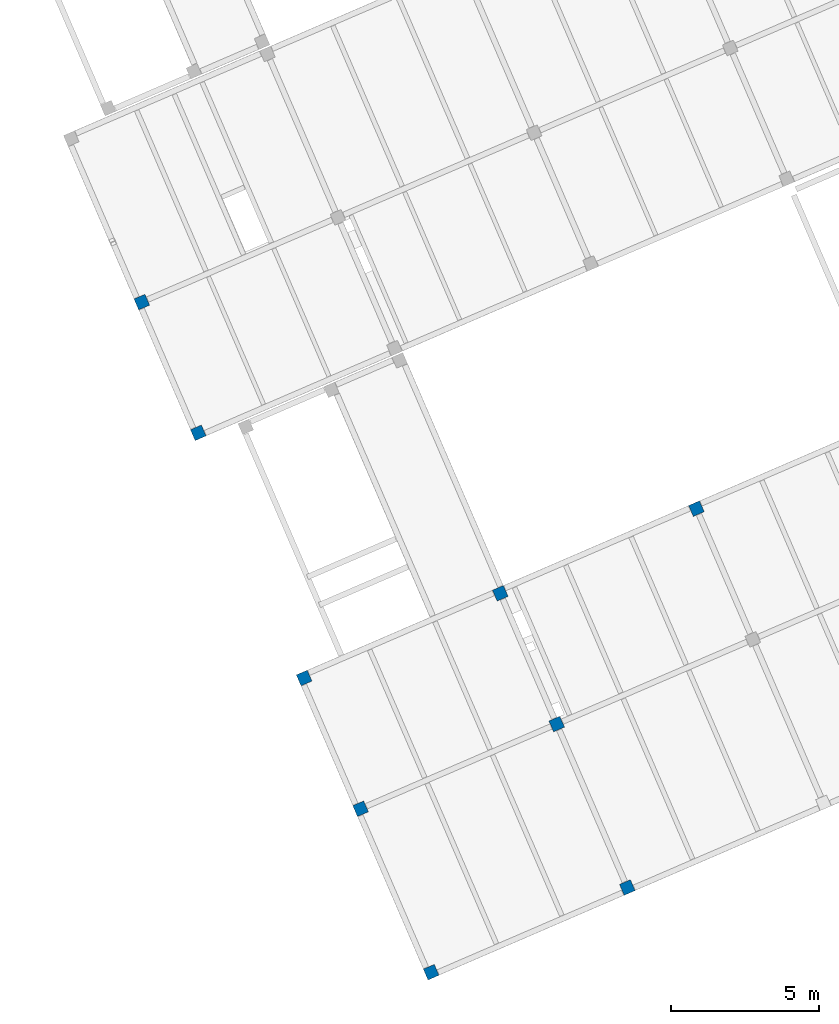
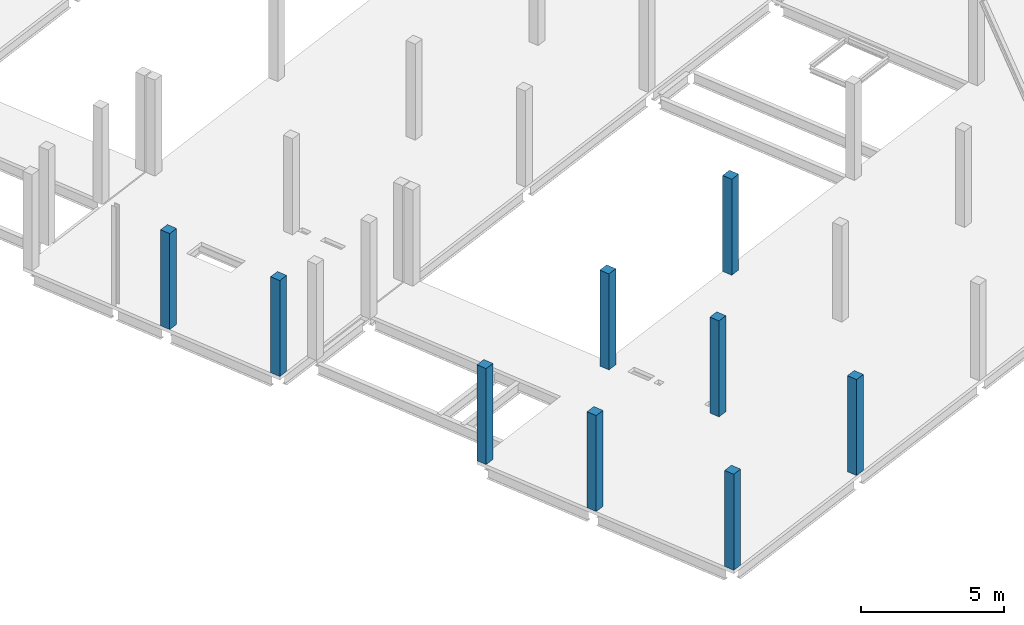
# One storey, part 1 of 24: 9 columns.
"""IFC4 building model written with IfcOpenShell, lengths in metres."""

import ifcopenshell
import ifcopenshell.guid

model = None  # the IFC model being written
_history = None  # IfcOwnerHistory: only IFC2X3 demands one
_inside = {}  # id of a spatial element -> (the spatial element, [elements in it])
_under = {}  # id of a project, library or spatial element -> (it, [spatial elements below it])
_declared = {}  # id of a project -> (the project, [libraries it declares])
_typed = {}  # id of a type object -> (the type object, [elements of that type])
_made_of = {}  # id of a material, layer set ... -> (it, [elements and type objects made of it])


def new_model(schema):
    """Start an empty IFC model of exactly this schema.

    Asked for "IFC4X3", IfcOpenShell would pick the latest addendum, in which some entities
    have other attributes; the version numbers below select the first issue.
    IFC2X3 requires an IfcOwnerHistory on every rooted entity: one is made here for all.
    """
    global model, _history
    if schema == "IFC4X3":
        model = ifcopenshell.file(schema_version=(4, 3, 0, 0))
    else:
        model = ifcopenshell.file(schema=schema)
    _inside.clear()
    _under.clear()
    _declared.clear()
    _typed.clear()
    _made_of.clear()
    _history = None
    if model.schema == "IFC2X3":
        org = make("IfcOrganization", Name="unknown")
        user = make(
            "IfcPersonAndOrganization",
            ThePerson=make("IfcPerson", FamilyName="unknown"),
            TheOrganization=org,
        )
        app = make(
            "IfcApplication",
            ApplicationDeveloper=org,
            Version="unknown",
            ApplicationFullName="unknown",
            ApplicationIdentifier="unknown",
        )
        _history = make(
            "IfcOwnerHistory",
            OwningUser=user,
            OwningApplication=app,
            ChangeAction="ADDED",
            CreationDate=0,
        )
    return model


def make(cls, **values):
    """One entity of the class cls with the attributes given. An attribute that is None is left unset."""
    return model.create_entity(
        cls, **{name: value for name, value in values.items() if value is not None}
    )


def entity(cls, *values):
    """Any entity or typed value of the class cls, its attributes in the order of the schema. None: left unset."""
    e = model.create_entity(cls)
    for i, value in enumerate(values):
        if value is not None:
            e[i] = value
    return e


def rooted(cls, **values):
    """An entity with a GlobalId (a new one), such as an element, a storey or a relation."""
    return make(cls, GlobalId=ifcopenshell.guid.new(), OwnerHistory=_history, **values)


def si_unit(unit_type, name, prefix=None):
    """IfcSIUnit, for example si_unit("LENGTHUNIT", "METRE", prefix="MILLI")."""
    return make("IfcSIUnit", UnitType=unit_type, Prefix=prefix, Name=name)


def converted_unit(unit_type, name, factor, base, dimensions=None, offset=None):
    """IfcConversionBasedUnit, such as the inch: factor (a typed value) times the base unit."""
    return make(
        "IfcConversionBasedUnit"
        if offset is None
        else "IfcConversionBasedUnitWithOffset",
        ConversionOffset=offset,
        Dimensions=None
        if dimensions is None
        else entity("IfcDimensionalExponents", *dimensions),
        UnitType=unit_type,
        Name=name,
        ConversionFactor=make(
            "IfcMeasureWithUnit", ValueComponent=factor, UnitComponent=base
        ),
    )


def derived_unit(unit_type, elements):
    """IfcDerivedUnit: a product of units, each with its exponent."""
    return make(
        "IfcDerivedUnit",
        Elements=[
            make("IfcDerivedUnitElement", Unit=unit, Exponent=power)
            for unit, power in elements
        ],
        UnitType=unit_type,
    )


def assignment(units):
    """IfcUnitAssignment: the units of a project."""
    return None if units is None else make("IfcUnitAssignment", Units=units)


def point(xyz):
    """IfcCartesianPoint."""
    return None if xyz is None else make("IfcCartesianPoint", Coordinates=xyz)


def direction(xyz):
    """IfcDirection."""
    return None if xyz is None else make("IfcDirection", DirectionRatios=xyz)


def frame(location, z_axis=None, x_axis=None):
    """IfcAxis2Placement3D, a coordinate frame: its origin and axes. An axis left out is left unset."""
    return make(
        "IfcAxis2Placement3D",
        Location=point(location),
        Axis=direction(z_axis),
        RefDirection=direction(x_axis),
    )


def origin():
    """The frame at (0, 0, 0) with its axes left unset."""
    return frame((0.0, 0.0, 0.0))


def place(relative_to, where):
    """IfcLocalPlacement: puts the frame where relative to a parent placement (None: the world)."""
    return make(
        "IfcLocalPlacement", PlacementRelTo=relative_to, RelativePlacement=where
    )


def context(
    kind, dimensions, precision=None, world=None, true_north=None, identifier=None
):
    """IfcGeometricRepresentationContext, for example the 3D "Model" context."""
    return make(
        "IfcGeometricRepresentationContext",
        ContextIdentifier=identifier,
        ContextType=kind,
        CoordinateSpaceDimension=dimensions,
        Precision=precision,
        WorldCoordinateSystem=world,
        TrueNorth=true_north,
    )


def subcontext(parent, identifier, kind, view, scale=None):
    """IfcGeometricRepresentationSubContext, for example "Body" below "Model"."""
    return make(
        "IfcGeometricRepresentationSubContext",
        ContextIdentifier=identifier,
        ContextType=kind,
        ParentContext=parent,
        TargetScale=scale,
        TargetView=view,
    )


def project(units=None, contexts=None):
    """IfcProject with its units and contexts."""
    return rooted(
        "IfcProject",
        Name="project",
        RepresentationContexts=contexts,
        UnitsInContext=assignment(units),
    )


def spatial(cls, under=None, at=None, **own):
    """A site, building, storey or space (cls), placed at a placement, below another one or the project."""
    s = rooted(cls, ObjectPlacement=at, **own)
    if under is not None:
        _under.setdefault(under.id(), (under, []))[1].append(s)
    return s


def point_list(points):
    """IfcCartesianPointList2D or 3D."""
    cls = (
        "IfcCartesianPointList2D" if len(points[0]) == 2 else "IfcCartesianPointList3D"
    )
    return make(cls, CoordList=points)


def indexed_curve(points, segments=None, self_intersect=None):
    """IfcIndexedPolyCurve: lines and arcs through numbered points (the first is 1)."""
    return make(
        "IfcIndexedPolyCurve",
        Points=point_list(points),
        Segments=segments,
        SelfIntersect=self_intersect,
    )


def outline(outer, holes=None, kind="AREA"):
    """IfcArbitraryClosedProfileDef: a profile drawn as a closed curve; with holes, ...WithVoids."""
    if holes is None:
        return make("IfcArbitraryClosedProfileDef", ProfileType=kind, OuterCurve=outer)
    return make(
        "IfcArbitraryProfileDefWithVoids",
        ProfileType=kind,
        OuterCurve=outer,
        InnerCurves=holes,
    )


def extrude(swept, where, along, depth):
    """IfcExtrudedAreaSolid: the profile swept, set in the frame where, extruded along a direction by depth."""
    return make(
        "IfcExtrudedAreaSolid",
        SweptArea=swept,
        Position=where,
        ExtrudedDirection=direction(along),
        Depth=depth,
    )


def shape(context_of_items, identifier, shape_type, items):
    """IfcShapeRepresentation: the items that make up one representation, for example the "Body"."""
    return make(
        "IfcShapeRepresentation",
        ContextOfItems=context_of_items,
        RepresentationIdentifier=identifier,
        RepresentationType=shape_type,
        Items=items,
    )


def source(mapping_origin, context_of_items, identifier, shape_type, items):
    """IfcRepresentationMap: a shape defined once, which mapped items show again and again."""
    return make(
        "IfcRepresentationMap",
        MappingOrigin=mapping_origin,
        MappedRepresentation=shape(context_of_items, identifier, shape_type, items),
    )


def transform(
    local_origin,
    x_axis=None,
    y_axis=None,
    z_axis=None,
    scale=None,
    scale2=None,
    scale3=None,
    uniform=True,
):
    """IfcCartesianTransformationOperator3D, or its non-uniform kind. x_axis, y_axis, z_axis: its Axis1, 2, 3."""
    if uniform:
        return make(
            "IfcCartesianTransformationOperator3D",
            Axis1=direction(x_axis),
            Axis2=direction(y_axis),
            LocalOrigin=point(local_origin),
            Scale=scale,
            Axis3=direction(z_axis),
        )
    return make(
        "IfcCartesianTransformationOperator3DnonUniform",
        Axis1=direction(x_axis),
        Axis2=direction(y_axis),
        LocalOrigin=point(local_origin),
        Scale=scale,
        Axis3=direction(z_axis),
        Scale2=scale2,
        Scale3=scale3,
    )


def mapped(mapping_source, mapping_target):
    """IfcMappedItem: shows the shape of a source again, moved by a transform."""
    return make(
        "IfcMappedItem", MappingSource=mapping_source, MappingTarget=mapping_target
    )


def material(Name=None, Category=None):
    """IfcMaterial."""
    return make("IfcMaterial", Name=Name, Category=Category)


def made_of(thing, what):
    """Note that an element or type object is made of a material, layer set ...; save() writes the relation."""
    if what is not None:
        _made_of.setdefault(what.id(), (what, []))[1].append(thing)
    return thing


def type_object(cls, material=None, **own):
    """A type object (cls), such as IfcWallType, which elements share."""
    return made_of(rooted(cls, **own), material)


def type_shapes(of_type, sources):
    """Give a type object the sources (RepresentationMaps) that its elements show as mapped items."""
    of_type.RepresentationMaps = sources


def element(
    cls,
    number,
    at=None,
    inside=None,
    cuts=None,
    type_object=None,
    material=None,
    context=None,
    identifier="Body",
    shape_type=None,
    held_by="IfcProductDefinitionShape",
    body=None,
    shapes=None,
    **own,
):
    """One element of the class cls, such as IfcWall. Its Tag is "e" and its number.

    at: its placement. inside: the storey or other place that contains it. cuts: it is an
    opening in that element (IfcRelVoidsElement). A single representation is given by context,
    identifier, shape_type and body (its items); several are given by shapes. held_by: the class
    of the entity that holds the representations. save() writes the other relations.
    """
    e = rooted(cls, Tag="e%d" % number, ObjectPlacement=at, **own)
    if body is not None:
        shapes = [shape(context, identifier, shape_type, body)]
    if shapes is not None:
        e.Representation = make(held_by, Representations=shapes)
    if inside is not None:
        _inside.setdefault(inside.id(), (inside, []))[1].append(e)
    if cuts is not None:
        rooted(
            "IfcRelVoidsElement", RelatingBuildingElement=cuts, RelatedOpeningElement=e
        )
    if type_object is not None:
        _typed.setdefault(type_object.id(), (type_object, []))[1].append(e)
    return made_of(e, material)


def aggregate(whole, parts):
    """IfcRelAggregates: a whole, such as a stair, and the parts it consists of."""
    return rooted("IfcRelAggregates", RelatingObject=whole, RelatedObjects=parts)


def save(model, path):
    """Write the relations noted so far, then the file.

    IfcRelAggregates (storeys below a building ...), IfcRelContainedInSpatialStructure (elements
    in a storey), IfcRelDefinesByType, IfcRelAssociatesMaterial and IfcRelDeclares: one each for
    every whole, place, type object, material and project.
    """
    for whole, parts in _under.values():
        aggregate(whole, parts)
    for where, things in _inside.values():
        rooted(
            "IfcRelContainedInSpatialStructure",
            RelatedElements=things,
            RelatingStructure=where,
        )
    for kind, things in _typed.values():
        rooted("IfcRelDefinesByType", RelatedObjects=things, RelatingType=kind)
    for what, things in _made_of.values():
        rooted("IfcRelAssociatesMaterial", RelatedObjects=things, RelatingMaterial=what)
    for by, libraries in _declared.values():
        rooted("IfcRelDeclares", RelatingContext=by, RelatedDefinitions=libraries)
    model.write(path)


model = new_model("IFC4")

# Units and contexts
model_context = context("Model", 3, precision=1e-05, world=origin(), true_north=direction((6.12323399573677e-17, 1.0)))
body_context = subcontext(model_context, "Body", "Model", "MODEL_VIEW")
ifc_project = project(units=[si_unit("LENGTHUNIT", "METRE"), si_unit("AREAUNIT", "SQUARE_METRE"), si_unit("VOLUMEUNIT", "CUBIC_METRE"), converted_unit("PLANEANGLEUNIT", "DEGREE", entity("IfcPlaneAngleMeasure", 0.0174532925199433), si_unit("PLANEANGLEUNIT", "RADIAN"), dimensions=[0, 0, 0, 0, 0, 0, 0]), si_unit("MASSUNIT", "GRAM", prefix="KILO"), derived_unit("MOMENTOFINERTIAUNIT", [(si_unit("LENGTHUNIT", "METRE"), 4)]), derived_unit("LINEARFORCEUNIT", [(si_unit("MASSUNIT", "GRAM", prefix="KILO"), 1), (si_unit("TIMEUNIT", "SECOND"), -2)]), derived_unit("WARPINGCONSTANTUNIT", [(si_unit("LENGTHUNIT", "METRE"), 6)]), derived_unit("THERMALTRANSMITTANCEUNIT", [(si_unit("MASSUNIT", "GRAM", prefix="KILO"), 1), (si_unit("THERMODYNAMICTEMPERATUREUNIT", "KELVIN"), -1), (si_unit("TIMEUNIT", "SECOND"), -3)]), derived_unit("USERDEFINED", [(si_unit("MASSUNIT", "GRAM", prefix="KILO"), 1), (si_unit("TIMEUNIT", "SECOND"), -2), (si_unit("THERMODYNAMICTEMPERATUREUNIT", "KELVIN"), -1)]), derived_unit("THERMALRESISTANCEUNIT", [(si_unit("MASSUNIT", "GRAM", prefix="KILO"), -1), (si_unit("TIMEUNIT", "SECOND"), 3), (si_unit("THERMODYNAMICTEMPERATUREUNIT", "KELVIN"), 1)])], contexts=[model_context])

# Site, building, storey
site_placement = place(None, origin())
site = spatial("IfcSite", under=ifc_project, at=site_placement, Name="Default", CompositionType="ELEMENT")
building_placement = place(site_placement, frame((12.6613425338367, -82.5732315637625, 317.15), z_axis=(0.0, 0.0, 1.0), x_axis=(-0.396377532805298, 0.918087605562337, 0.0)))
building = spatial("IfcBuilding", under=site, at=building_placement, Name="CESFAM Coyhaique", CompositionType="ELEMENT")
storey_placement = place(building_placement, frame((0.0, 0.0, 4.20000000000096)))
storey = spatial("IfcBuildingStorey", under=building, at=storey_placement, Name="Nivel 2", CompositionType="ELEMENT", Elevation=4.20000000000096)

# Columns
ifc_material = material(Name="HA")
column_type_1 = type_object("IfcColumnType", Name="M_Concrete-Square-Column:400 x 400mm", PredefinedType="COLUMN", material=ifc_material)
shared_shape_1 = source(origin(), body_context, "Body", "SweptSolid", [
    extrude(outline(indexed_curve([(-0.2, -0.2), (0.2, -0.2), (0.2, 0.2), (-0.2, 0.2), (-0.2, -0.2)], self_intersect=False)), frame((4.16885341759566, 17.2028504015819, 4.20000000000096), z_axis=(0.0, 0.0, 1.0), x_axis=(-1.0, 0.0, 0.0)), (0.0, 0.0, 1.0), 4.10000000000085),
])
type_shapes(column_type_1, [shared_shape_1])
column_1_placement = place(storey_placement, frame((0.0, 0.0, -4.20000000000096)))
element("IfcColumn", 1, at=column_1_placement, inside=storey, type_object=column_type_1, Name="M_Concrete-Square-Column:400 x 400mm", ObjectType="M_Concrete-Square-Column:400 x 400mm", PredefinedType="COLUMN", context=body_context, shape_type="MappedRepresentation", body=[
    mapped(shared_shape_1, transform((0.0, 0.0, 0.0), scale=1.0)),
])
column_type_2 = type_object("IfcColumnType", Name="M_Concrete-Square-Column:400 x 400mm", PredefinedType="COLUMN", material=ifc_material)
shared_shape_2 = source(origin(), body_context, "Body", "SweptSolid", [
    extrude(outline(indexed_curve([(-0.2, -0.2), (0.2, -0.2), (0.2, 0.2), (-0.2, 0.2), (-0.2, -0.2)], self_intersect=False)), frame((4.16885341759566, 10.0028504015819, 4.20000000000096), z_axis=(0.0, 0.0, 1.0), x_axis=(-1.0, 0.0, 0.0)), (0.0, 0.0, 1.0), 4.10000000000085),
])
type_shapes(column_type_2, [shared_shape_2])
column_2_placement = place(storey_placement, frame((0.0, 0.0, -4.20000000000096)))
element("IfcColumn", 2, at=column_2_placement, inside=storey, type_object=column_type_2, Name="M_Concrete-Square-Column:400 x 400mm", ObjectType="M_Concrete-Square-Column:400 x 400mm", PredefinedType="COLUMN", context=body_context, shape_type="MappedRepresentation", body=[
    mapped(shared_shape_2, transform((0.0, 0.0, 0.0), scale=1.0)),
])
column_type_3 = type_object("IfcColumnType", Name="M_Concrete-Square-Column:400 x 400mm", PredefinedType="COLUMN", material=ifc_material)
shared_shape_3 = source(origin(), body_context, "Body", "SweptSolid", [
    extrude(outline(indexed_curve([(-0.2, -0.2), (0.2, -0.2), (0.2, 0.2), (-0.2, 0.2), (-0.2, -0.2)], self_intersect=False)), frame((10.1688534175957, 17.2028504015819, 4.20000000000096), z_axis=(0.0, 0.0, 1.0), x_axis=(-1.0, 0.0, 0.0)), (0.0, 0.0, 1.0), 4.10000000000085),
])
type_shapes(column_type_3, [shared_shape_3])
column_3_placement = place(storey_placement, frame((0.0, 0.0, -4.20000000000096)))
element("IfcColumn", 3, at=column_3_placement, inside=storey, type_object=column_type_3, Name="M_Concrete-Square-Column:400 x 400mm", ObjectType="M_Concrete-Square-Column:400 x 400mm", PredefinedType="COLUMN", context=body_context, shape_type="MappedRepresentation", body=[
    mapped(shared_shape_3, transform((0.0, 0.0, 0.0), scale=1.0)),
])
column_type_4 = type_object("IfcColumnType", Name="M_Concrete-Square-Column:400 x 400mm", PredefinedType="COLUMN", material=ifc_material)
shared_shape_4 = source(origin(), body_context, "Body", "SweptSolid", [
    extrude(outline(indexed_curve([(-0.159999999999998, -0.22), (0.240000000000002, -0.22), (0.240000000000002, 0.18), (-0.159999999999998, 0.18), (-0.159999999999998, 0.0800000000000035), (-0.159999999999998, -0.22)], self_intersect=False)), frame((10.2088534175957, 9.9828504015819, 4.20000000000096), z_axis=(0.0, 0.0, 1.0), x_axis=(-1.0, 0.0, 0.0)), (0.0, 0.0, 1.0), 4.10000000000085),
])
type_shapes(column_type_4, [shared_shape_4])
column_4_placement = place(storey_placement, frame((0.0, 0.0, -4.20000000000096)))
element("IfcColumn", 4, at=column_4_placement, inside=storey, type_object=column_type_4, Name="M_Concrete-Square-Column:400 x 400mm", ObjectType="M_Concrete-Square-Column:400 x 400mm", PredefinedType="COLUMN", context=body_context, shape_type="MappedRepresentation", body=[
    mapped(shared_shape_4, transform((0.0, 0.0, 0.0), scale=1.0)),
])
column_type_5 = type_object("IfcColumnType", Name="M_Concrete-Square-Column:400 x 400mm", PredefinedType="COLUMN", material=ifc_material)
shared_shape_5 = source(origin(), body_context, "Body", "SweptSolid", [
    extrude(outline(indexed_curve([(-0.2, -0.2), (0.2, -0.2), (0.2, 0.2), (-0.2, 0.2), (-0.2, -0.2)], self_intersect=False)), frame((14.9688534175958, 17.2028504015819, 4.20000000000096), z_axis=(0.0, 0.0, 1.0), x_axis=(-1.0, 0.0, 0.0)), (0.0, 0.0, 1.0), 4.10000000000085),
])
type_shapes(column_type_5, [shared_shape_5])
column_5_placement = place(storey_placement, frame((0.0, 0.0, -4.20000000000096)))
element("IfcColumn", 5, at=column_5_placement, inside=storey, type_object=column_type_5, Name="M_Concrete-Square-Column:400 x 400mm", ObjectType="M_Concrete-Square-Column:400 x 400mm", PredefinedType="COLUMN", context=body_context, shape_type="MappedRepresentation", body=[
    mapped(shared_shape_5, transform((0.0, 0.0, 0.0), scale=1.0)),
])
column_type_6 = type_object("IfcColumnType", Name="M_Concrete-Square-Column:400 x 400mm", PredefinedType="COLUMN", material=ifc_material)
shared_shape_6 = source(origin(), body_context, "Body", "SweptSolid", [
    extrude(outline(indexed_curve([(-0.2, -0.2), (0.2, -0.2), (0.2, 0.2), (-0.2, 0.2), (-0.2, -0.2)], self_intersect=False)), frame((14.9688534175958, 10.0028504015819, 4.20000000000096), z_axis=(0.0, 0.0, 1.0), x_axis=(-1.0, 0.0, 0.0)), (0.0, 0.0, 1.0), 4.10000000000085),
])
type_shapes(column_type_6, [shared_shape_6])
column_6_placement = place(storey_placement, frame((0.0, 0.0, -4.20000000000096)))
element("IfcColumn", 6, at=column_6_placement, inside=storey, type_object=column_type_6, Name="M_Concrete-Square-Column:400 x 400mm", ObjectType="M_Concrete-Square-Column:400 x 400mm", PredefinedType="COLUMN", context=body_context, shape_type="MappedRepresentation", body=[
    mapped(shared_shape_6, transform((0.0, 0.0, 0.0), scale=1.0)),
])
column_type_7 = type_object("IfcColumnType", Name="M_Concrete-Square-Column:400 x 400mm", PredefinedType="COLUMN", material=ifc_material)
shared_shape_7 = source(origin(), body_context, "Body", "SweptSolid", [
    extrude(outline(indexed_curve([(-0.2, -0.2), (0.2, -0.2), (0.2, 0.2), (-0.2, 0.2), (-0.2, -0.2)], self_intersect=False)), frame((14.9688534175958, 2.8028504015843, 4.20000000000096), z_axis=(0.0, 0.0, 1.0), x_axis=(-1.0, 0.0, 0.0)), (0.0, 0.0, 1.0), 4.10000000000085),
])
type_shapes(column_type_7, [shared_shape_7])
column_7_placement = place(storey_placement, frame((0.0, 0.0, -4.20000000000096)))
element("IfcColumn", 7, at=column_7_placement, inside=storey, type_object=column_type_7, Name="M_Concrete-Square-Column:400 x 400mm", ObjectType="M_Concrete-Square-Column:400 x 400mm", PredefinedType="COLUMN", context=body_context, shape_type="MappedRepresentation", body=[
    mapped(shared_shape_7, transform((0.0, 0.0, 0.0), scale=1.0)),
])
column_type_8 = type_object("IfcColumnType", Name="M_Concrete-Square-Column:400 x 400mm", PredefinedType="COLUMN", material=ifc_material)
shared_shape_8 = source(origin(), body_context, "Body", "SweptSolid", [
    extrude(outline(indexed_curve([(-0.199999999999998, -0.2), (0.200000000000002, -0.2), (0.200000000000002, 0.2), (-0.199999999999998, 0.2), (-0.199999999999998, -0.2)], self_intersect=False)), frame((23.9688534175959, 17.2028504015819, 4.20000000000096), z_axis=(0.0, 0.0, 1.0), x_axis=(-1.0, 0.0, 0.0)), (0.0, 0.0, 1.0), 4.10000000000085),
])
type_shapes(column_type_8, [shared_shape_8])
column_8_placement = place(storey_placement, frame((0.0, 0.0, -4.20000000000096)))
element("IfcColumn", 8, at=column_8_placement, inside=storey, type_object=column_type_8, Name="M_Concrete-Square-Column:400 x 400mm", ObjectType="M_Concrete-Square-Column:400 x 400mm", PredefinedType="COLUMN", context=body_context, shape_type="MappedRepresentation", body=[
    mapped(shared_shape_8, transform((0.0, 0.0, 0.0), scale=1.0)),
])
column_type_9 = type_object("IfcColumnType", Name="M_Concrete-Square-Column:400 x 400mm", PredefinedType="COLUMN", material=ifc_material)
shared_shape_9 = source(origin(), body_context, "Body", "SweptSolid", [
    extrude(outline(indexed_curve([(-0.200000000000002, -0.2), (0.199999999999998, -0.2), (0.199999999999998, 0.2), (-0.200000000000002, 0.2), (-0.200000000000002, -0.2)], self_intersect=False)), frame((28.7688534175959, 17.2028504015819, 4.20000000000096), z_axis=(0.0, 0.0, 1.0), x_axis=(-1.0, 0.0, 0.0)), (0.0, 0.0, 1.0), 4.10000000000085),
])
type_shapes(column_type_9, [shared_shape_9])
column_9_placement = place(storey_placement, frame((0.0, 0.0, -4.20000000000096)))
element("IfcColumn", 9, at=column_9_placement, inside=storey, type_object=column_type_9, Name="M_Concrete-Square-Column:400 x 400mm", ObjectType="M_Concrete-Square-Column:400 x 400mm", PredefinedType="COLUMN", context=body_context, shape_type="MappedRepresentation", body=[
    mapped(shared_shape_9, transform((0.0, 0.0, 0.0), scale=1.0)),
])

save(model, "model.ifc")
